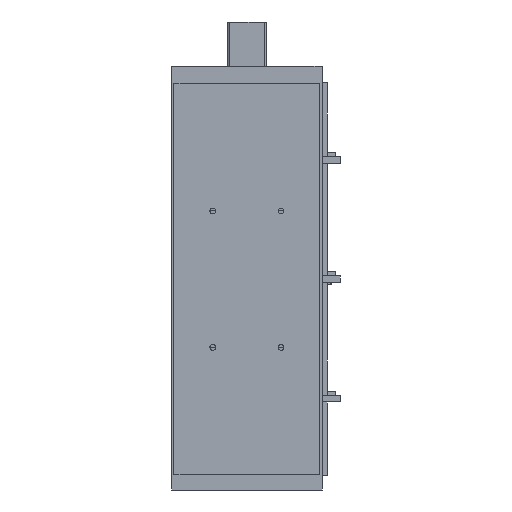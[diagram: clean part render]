
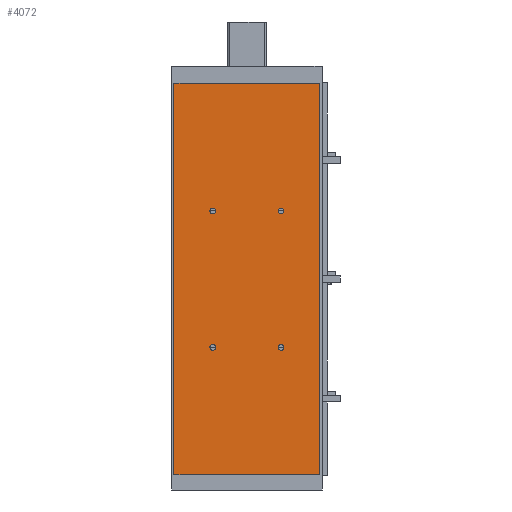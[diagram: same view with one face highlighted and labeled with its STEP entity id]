
A CAD part, front view. The second image highlights one B-rep face of the part: STEP entity #4072.
In plain terms, the highlighted planar face has unit normal (0, -1, 0).
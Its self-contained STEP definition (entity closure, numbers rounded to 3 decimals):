
#3162=CARTESIAN_POINT('',(-107.,0.0,574.0));
#3163=VERTEX_POINT('',#3162);
#3170=CARTESIAN_POINT('',(107.,0.0,574.0));
#3171=VERTEX_POINT('',#3170);
#3172=CARTESIAN_POINT('',(107.,0.0,574.0));
#3173=DIRECTION('',(-1.0,0.0,0.0));
#3174=VECTOR('',#3173,214.);
#3175=LINE('',#3172,#3174);
#3176=EDGE_CURVE('',#3171,#3163,#3175,.T.);
#3506=CARTESIAN_POINT('',(107.,0.0,0.0));
#3507=VERTEX_POINT('',#3506);
#3514=CARTESIAN_POINT('',(-107.,0.0,0.0));
#3515=VERTEX_POINT('',#3514);
#3516=CARTESIAN_POINT('',(-107.,0.0,0.0));
#3517=DIRECTION('',(1.0,0.0,0.0));
#3518=VECTOR('',#3517,214.);
#3519=LINE('',#3516,#3518);
#3520=EDGE_CURVE('',#3515,#3507,#3519,.T.);
#3626=CARTESIAN_POINT('',(45.751,0.0,187.));
#3627=VERTEX_POINT('',#3626);
#3628=CARTESIAN_POINT('',(50.001,0.0,187.));
#3629=DIRECTION('',(0.0,1.0,0.0));
#3630=DIRECTION('',(1.0,0.0,0.0));
#3631=AXIS2_PLACEMENT_3D('',#3628,#3629,#3630);
#3632=CIRCLE('',#3631,4.25);
#3633=EDGE_CURVE('',#3627,#3627,#3632,.T.);
#3667=CARTESIAN_POINT('',(-54.249,0.0,187.));
#3668=VERTEX_POINT('',#3667);
#3669=CARTESIAN_POINT('',(-49.999,0.0,187.));
#3670=DIRECTION('',(0.0,1.0,0.0));
#3671=DIRECTION('',(1.0,0.0,0.0));
#3672=AXIS2_PLACEMENT_3D('',#3669,#3670,#3671);
#3673=CIRCLE('',#3672,4.25);
#3674=EDGE_CURVE('',#3668,#3668,#3673,.T.);
#3846=CARTESIAN_POINT('',(45.751,0.0,387.0));
#3847=VERTEX_POINT('',#3846);
#3848=CARTESIAN_POINT('',(50.001,0.0,387.0));
#3849=DIRECTION('',(0.0,1.0,0.0));
#3850=DIRECTION('',(1.0,0.0,0.0));
#3851=AXIS2_PLACEMENT_3D('',#3848,#3849,#3850);
#3852=CIRCLE('',#3851,4.25);
#3853=EDGE_CURVE('',#3847,#3847,#3852,.T.);
#3956=CARTESIAN_POINT('',(-54.249,0.0,387.0));
#3957=VERTEX_POINT('',#3956);
#3958=CARTESIAN_POINT('',(-49.999,0.0,387.0));
#3959=DIRECTION('',(0.0,1.0,0.0));
#3960=DIRECTION('',(1.0,0.0,0.0));
#3961=AXIS2_PLACEMENT_3D('',#3958,#3959,#3960);
#3962=CIRCLE('',#3961,4.25);
#3963=EDGE_CURVE('',#3957,#3957,#3962,.T.);
#3983=CARTESIAN_POINT('',(107.,0.0,0.0));
#3984=DIRECTION('',(0.0,0.0,1.0));
#3985=VECTOR('',#3984,574.0);
#3986=LINE('',#3983,#3985);
#3987=EDGE_CURVE('',#3507,#3171,#3986,.T.);
#4005=CARTESIAN_POINT('',(-107.,0.0,0.0));
#4006=DIRECTION('',(0.0,0.0,1.0));
#4007=VECTOR('',#4006,574.0);
#4008=LINE('',#4005,#4007);
#4009=EDGE_CURVE('',#3515,#3163,#4008,.T.);
#4049=CARTESIAN_POINT('',(107.,0.0,0.0));
#4050=DIRECTION('',(0.0,-1.0,0.0));
#4051=DIRECTION('',(0.0,0.0,-1.0));
#4052=AXIS2_PLACEMENT_3D('',#4049,#4050,#4051);
#4053=PLANE('',#4052);
#4054=ORIENTED_EDGE('',*,*,#3176,.T.);
#4055=ORIENTED_EDGE('',*,*,#4009,.F.);
#4056=ORIENTED_EDGE('',*,*,#3520,.T.);
#4057=ORIENTED_EDGE('',*,*,#3987,.T.);
#4058=EDGE_LOOP('',(#4054,#4055,#4056,#4057));
#4059=FACE_OUTER_BOUND('',#4058,.T.);
#4060=ORIENTED_EDGE('',*,*,#3633,.T.);
#4061=EDGE_LOOP('',(#4060));
#4062=FACE_BOUND('',#4061,.T.);
#4063=ORIENTED_EDGE('',*,*,#3674,.T.);
#4064=EDGE_LOOP('',(#4063));
#4065=FACE_BOUND('',#4064,.T.);
#4066=ORIENTED_EDGE('',*,*,#3853,.T.);
#4067=EDGE_LOOP('',(#4066));
#4068=FACE_BOUND('',#4067,.T.);
#4069=ORIENTED_EDGE('',*,*,#3963,.T.);
#4070=EDGE_LOOP('',(#4069));
#4071=FACE_BOUND('',#4070,.T.);
#4072=ADVANCED_FACE('',(#4059,#4062,#4065,#4068,#4071),#4053,.T.);
